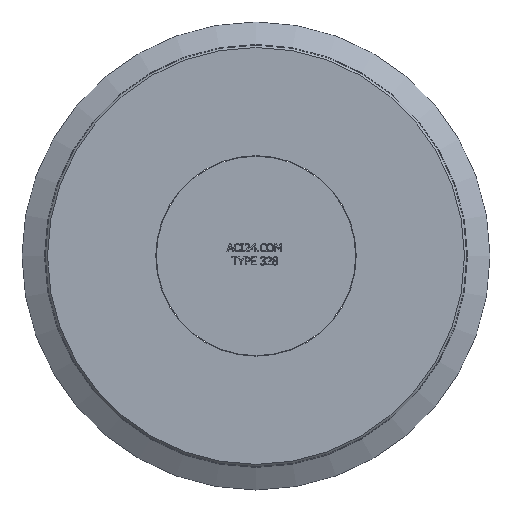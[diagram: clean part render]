
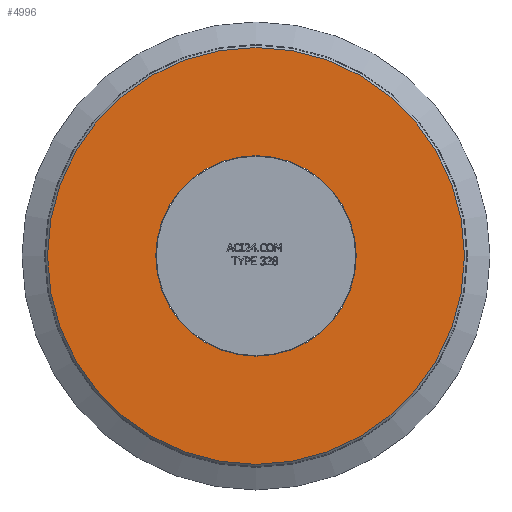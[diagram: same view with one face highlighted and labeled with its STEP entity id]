
A CAD part, top view. The second image highlights one B-rep face of the part: STEP entity #4996.
In plain terms, the highlighted planar face has unit normal (0, 0, 1).
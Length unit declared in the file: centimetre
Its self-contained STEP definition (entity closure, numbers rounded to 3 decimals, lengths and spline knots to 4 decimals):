
#27=CIRCLE('',#5157,10.4);
#29=CIRCLE('',#5161,5.);
#85=FACE_BOUND('',#992,.T.);
#697=FACE_OUTER_BOUND('',#991,.T.);
#991=EDGE_LOOP('',(#4569));
#992=EDGE_LOOP('',(#4570));
#2430=VERTEX_POINT('',#8913);
#2432=VERTEX_POINT('',#8919);
#3146=EDGE_CURVE('',#2430,#2430,#27,.T.);
#3148=EDGE_CURVE('',#2432,#2432,#29,.T.);
#4569=ORIENTED_EDGE('',*,*,#3146,.F.);
#4570=ORIENTED_EDGE('',*,*,#3148,.F.);
#4732=PLANE('',#5160);
#4996=ADVANCED_FACE('',(#697,#85),#4732,.T.);
#5157=AXIS2_PLACEMENT_3D('',#8914,#5951,#5952);
#5160=AXIS2_PLACEMENT_3D('',#8918,#5957,#5958);
#5161=AXIS2_PLACEMENT_3D('',#8920,#5959,#5960);
#5951=DIRECTION('center_axis',(0.,0.,
-1.));
#5952=DIRECTION('ref_axis',(0.,-1.,0.));
#5957=DIRECTION('center_axis',(0.,0.,
1.));
#5958=DIRECTION('ref_axis',(0.,1.,0.));
#5959=DIRECTION('center_axis',(0.,0.,
1.));
#5960=DIRECTION('ref_axis',(-1.,0.,0.));
#8913=CARTESIAN_POINT('',(0.,10.4,0.9));
#8914=CARTESIAN_POINT('Origin',(0.,0.,
0.9));
#8918=CARTESIAN_POINT('Origin',(0.,5.,0.9));
#8919=CARTESIAN_POINT('',(0.,5.,0.9));
#8920=CARTESIAN_POINT('Origin',(0.,0.,
0.9));
